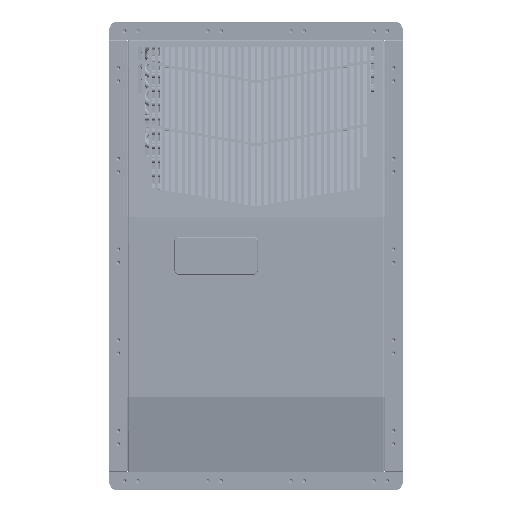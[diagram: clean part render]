
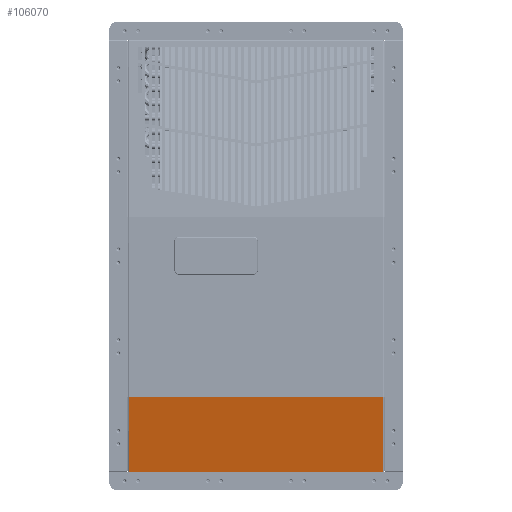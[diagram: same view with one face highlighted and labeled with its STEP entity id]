
A CAD part, top view. The second image highlights one B-rep face of the part: STEP entity #106070.
In plain terms, the highlighted planar face has unit normal (0, -0.212, 0.977).
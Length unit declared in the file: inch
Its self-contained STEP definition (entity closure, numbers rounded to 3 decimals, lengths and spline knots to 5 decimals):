
#21638 = CARTESIAN_POINT ( 'NONE',  ( -0.344, -28.53973, 6.48196 ) ) ;
#21662 = CARTESIAN_POINT ( 'NONE',  ( 8.404, -23.60454, 7.5535 ) ) ;
#21664 = DIRECTION ( 'NONE',  ( -1., 0., 0. ) ) ;
#21668 = DIRECTION ( 'NONE',  ( 0., 0.977, 0.212 ) ) ;
#21676 = CARTESIAN_POINT ( 'NONE',  ( 8.404, -23.60454, 7.5535 ) ) ;
#21677 = DIRECTION ( 'NONE',  ( -1., 0., 0. ) ) ;
#21679 = CARTESIAN_POINT ( 'NONE',  ( 8.404, -28.53973, 6.48196 ) ) ;
#21690 = CARTESIAN_POINT ( 'NONE',  ( 8.404, -23.60454, 7.5535 ) ) ;
#21692 = DIRECTION ( 'NONE',  ( -1., 0., 0. ) ) ;
#21694 = CARTESIAN_POINT ( 'NONE',  ( 8.404, -23.61218, 7.55184 ) ) ;
#21696 = DIRECTION ( 'NONE',  ( -1., 0., 0. ) ) ;
#21698 = CARTESIAN_POINT ( 'NONE',  ( 0.094, -28.53973, 6.48196 ) ) ;
#21700 = DIRECTION ( 'NONE',  ( 0., -0.977, -0.212 ) ) ;
#21702 = CARTESIAN_POINT ( 'NONE',  ( 8.404, -23.61218, 7.55184 ) ) ;
#21704 = DIRECTION ( 'NONE',  ( 1., 0., 0. ) ) ;
#21706 = CARTESIAN_POINT ( 'NONE',  ( -0.094, -28.53973, 6.48196 ) ) ;
#21708 = DIRECTION ( 'NONE',  ( 0., -0.977, -0.212 ) ) ;
#21711 = CARTESIAN_POINT ( 'NONE',  ( -8.404, -28.53973, 6.48196 ) ) ;
#21712 = DIRECTION ( 'NONE',  ( 0., 0.977, 0.212 ) ) ;
#21715 = CARTESIAN_POINT ( 'NONE',  ( 8.404, -28.53973, 6.48196 ) ) ;
#21716 = DIRECTION ( 'NONE',  ( -1., 0., 0. ) ) ;
#21721 = DIRECTION ( 'NONE',  ( 0., 0.977, 0.212 ) ) ;
#21727 = CARTESIAN_POINT ( 'NONE',  ( 0.344, -28.53973, 6.48196 ) ) ;
#21729 = DIRECTION ( 'NONE',  ( 0., 0.977, 0.212 ) ) ;
#26470 = VECTOR ( 'NONE', #21664, 39.37008 ) ;
#26486 = LINE ( 'NONE', #21662, #26470 ) ;
#26501 = VECTOR ( 'NONE', #21677, 39.37008 ) ;
#26512 = LINE ( 'NONE', #21676, #26501 ) ;
#26513 = LINE ( 'NONE', #21638, #26518 ) ;
#26518 = VECTOR ( 'NONE', #21668, 39.37008 ) ;
#26521 = LINE ( 'NONE', #21690, #26528 ) ;
#26528 = VECTOR ( 'NONE', #21692, 39.37008 ) ;
#26533 = LINE ( 'NONE', #21679, #26559 ) ;
#26537 = LINE ( 'NONE', #21694, #26539 ) ;
#26539 = VECTOR ( 'NONE', #21696, 39.37008 ) ;
#26540 = LINE ( 'NONE', #21698, #26543 ) ;
#26543 = VECTOR ( 'NONE', #21700, 39.37008 ) ;
#26544 = LINE ( 'NONE', #21702, #26546 ) ;
#26546 = VECTOR ( 'NONE', #21704, 39.37008 ) ;
#26548 = LINE ( 'NONE', #21706, #26549 ) ;
#26549 = VECTOR ( 'NONE', #21708, 39.37008 ) ;
#26552 = LINE ( 'NONE', #21711, #26554 ) ;
#26554 = VECTOR ( 'NONE', #21712, 39.37008 ) ;
#26556 = LINE ( 'NONE', #21715, #26557 ) ;
#26557 = VECTOR ( 'NONE', #21716, 39.37008 ) ;
#26559 = VECTOR ( 'NONE', #21721, 39.37008 ) ;
#26565 = LINE ( 'NONE', #21727, #26567 ) ;
#26567 = VECTOR ( 'NONE', #21729, 39.37008 ) ;
#106070 = ADVANCED_FACE ( 'NONE', ( #151853 ), #152299, .T. ) ;
#134196 = EDGE_LOOP ( 'NONE', ( #231787, #231790, #231793, #231796, #231799, #231802, #231804, #231807, #231810, #231813, #231816, #231819 ) ) ;
#147050 = AXIS2_PLACEMENT_3D ( 'NONE', #152298, #152304, #152305 ) ;
#151853 = FACE_OUTER_BOUND ( 'NONE', #134196, .T. ) ;
#152298 = CARTESIAN_POINT ( 'NONE',  ( 8.404, -28.53973, 6.48196 ) ) ;
#152299 = PLANE ( 'NONE',  #147050 ) ;
#152304 = DIRECTION ( 'NONE',  ( 0., -0.212, 0.977 ) ) ;
#152305 = DIRECTION ( 'NONE',  ( 0., -0.977, -0.212 ) ) ;
#213325 = VERTEX_POINT ( 'NONE', #224417 ) ;
#213329 = VERTEX_POINT ( 'NONE', #224420 ) ;
#213333 = VERTEX_POINT ( 'NONE', #224422 ) ;
#213337 = VERTEX_POINT ( 'NONE', #224425 ) ;
#213339 = VERTEX_POINT ( 'NONE', #224427 ) ;
#213342 = VERTEX_POINT ( 'NONE', #224429 ) ;
#213346 = VERTEX_POINT ( 'NONE', #224432 ) ;
#213350 = VERTEX_POINT ( 'NONE', #224435 ) ;
#213353 = VERTEX_POINT ( 'NONE', #224437 ) ;
#213357 = VERTEX_POINT ( 'NONE', #224440 ) ;
#213360 = VERTEX_POINT ( 'NONE', #224442 ) ;
#213363 = VERTEX_POINT ( 'NONE', #224445 ) ;
#224417 = CARTESIAN_POINT ( 'NONE',  ( 0.094, -23.60454, 7.5535 ) ) ;
#224420 = CARTESIAN_POINT ( 'NONE',  ( -0.094, -23.60454, 7.5535 ) ) ;
#224422 = CARTESIAN_POINT ( 'NONE',  ( 0.344, -23.60454, 7.5535 ) ) ;
#224425 = CARTESIAN_POINT ( 'NONE',  ( 8.404, -23.60454, 7.5535 ) ) ;
#224427 = CARTESIAN_POINT ( 'NONE',  ( 0.094, -23.61218, 7.55184 ) ) ;
#224429 = CARTESIAN_POINT ( 'NONE',  ( 0.344, -23.61218, 7.55184 ) ) ;
#224432 = CARTESIAN_POINT ( 'NONE',  ( -0.094, -23.61218, 7.55184 ) ) ;
#224435 = CARTESIAN_POINT ( 'NONE',  ( -0.344, -23.61218, 7.55184 ) ) ;
#224437 = CARTESIAN_POINT ( 'NONE',  ( -0.344, -23.60454, 7.5535 ) ) ;
#224440 = CARTESIAN_POINT ( 'NONE',  ( -8.404, -23.60454, 7.5535 ) ) ;
#224442 = CARTESIAN_POINT ( 'NONE',  ( -8.404, -28.53973, 6.48196 ) ) ;
#224445 = CARTESIAN_POINT ( 'NONE',  ( 8.404, -28.53973, 6.48196 ) ) ;
#231787 = ORIENTED_EDGE ( 'NONE', *, *, #239539, .F. ) ;
#231790 = ORIENTED_EDGE ( 'NONE', *, *, #239537, .F. ) ;
#231793 = ORIENTED_EDGE ( 'NONE', *, *, #239527, .T. ) ;
#231796 = ORIENTED_EDGE ( 'NONE', *, *, #239541, .T. ) ;
#231799 = ORIENTED_EDGE ( 'NONE', *, *, #239535, .T. ) ;
#231802 = ORIENTED_EDGE ( 'NONE', *, *, #239523, .T. ) ;
#231804 = ORIENTED_EDGE ( 'NONE', *, *, #239533, .T. ) ;
#231807 = ORIENTED_EDGE ( 'NONE', *, *, #239543, .F. ) ;
#231810 = ORIENTED_EDGE ( 'NONE', *, *, #239545, .F. ) ;
#231813 = ORIENTED_EDGE ( 'NONE', *, *, #239547, .T. ) ;
#231816 = ORIENTED_EDGE ( 'NONE', *, *, #239522, .T. ) ;
#231819 = ORIENTED_EDGE ( 'NONE', *, *, #239551, .F. ) ;
#239522 = EDGE_CURVE ( 'NONE', #213337, #213333, #26486, .T. ) ;
#239523 = EDGE_CURVE ( 'NONE', #213350, #213353, #26513, .T. ) ;
#239527 = EDGE_CURVE ( 'NONE', #213325, #213329, #26512, .T. ) ;
#239533 = EDGE_CURVE ( 'NONE', #213353, #213357, #26521, .T. ) ;
#239535 = EDGE_CURVE ( 'NONE', #213346, #213350, #26537, .T. ) ;
#239537 = EDGE_CURVE ( 'NONE', #213325, #213339, #26540, .T. ) ;
#239539 = EDGE_CURVE ( 'NONE', #213339, #213342, #26544, .T. ) ;
#239541 = EDGE_CURVE ( 'NONE', #213329, #213346, #26548, .T. ) ;
#239543 = EDGE_CURVE ( 'NONE', #213360, #213357, #26552, .T. ) ;
#239545 = EDGE_CURVE ( 'NONE', #213363, #213360, #26556, .T. ) ;
#239547 = EDGE_CURVE ( 'NONE', #213363, #213337, #26533, .T. ) ;
#239551 = EDGE_CURVE ( 'NONE', #213342, #213333, #26565, .T. ) ;
